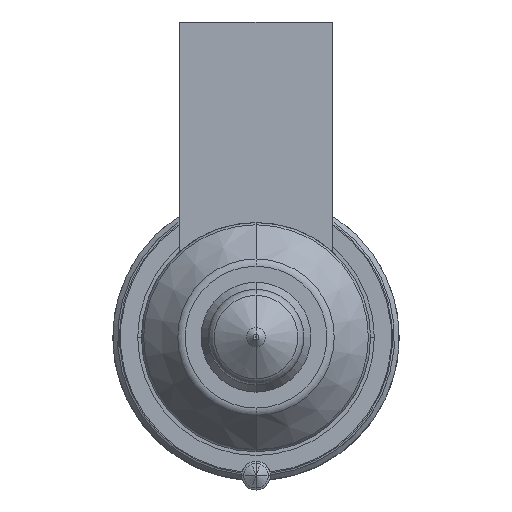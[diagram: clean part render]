
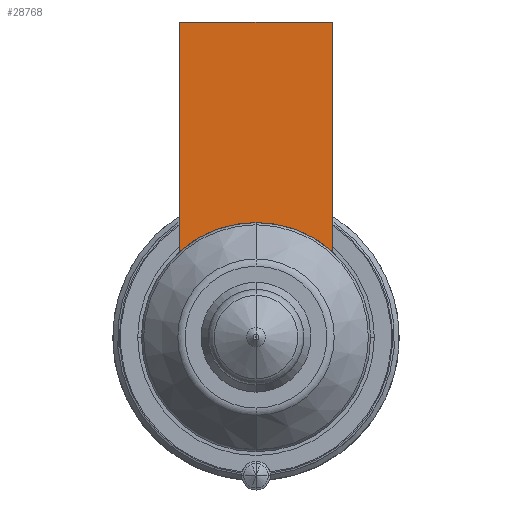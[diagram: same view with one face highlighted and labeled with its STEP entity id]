
A CAD part, front view. The second image highlights one B-rep face of the part: STEP entity #28768.
In plain terms, the highlighted planar face has unit normal (0, -1, 0).
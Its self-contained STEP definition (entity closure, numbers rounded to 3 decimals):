
#27924=DIRECTION('',(0.,0.,-1.));
#27925=VECTOR('',#27924,24.056);
#27926=CARTESIAN_POINT('',(-8.,-56.,33.));
#27927=LINE('',#27926,#27925);
#27964=DIRECTION('',(1.,0.,0.));
#27965=VECTOR('',#27964,16.);
#27966=CARTESIAN_POINT('',(-8.,-56.,33.));
#27967=LINE('',#27966,#27965);
#27971=CARTESIAN_POINT('',(0.,-56.,0.));
#27972=DIRECTION('',(0.,-1.,0.));
#27973=DIRECTION('',(0.667,0.,0.745));
#27974=AXIS2_PLACEMENT_3D('',#27971,#27972,#27973);
#27979=CARTESIAN_POINT('',(0.,-56.,0.));
#27980=DIRECTION('',(0.,-1.,0.));
#27981=DIRECTION('',(0.,0.,1.));
#27982=AXIS2_PLACEMENT_3D('',#27979,#27980,#27981);
#28015=DIRECTION('',(0.,0.,-1.));
#28016=VECTOR('',#28015,24.056);
#28017=CARTESIAN_POINT('',(8.,-56.,33.));
#28018=LINE('',#28017,#28016);
#28612=CARTESIAN_POINT('',(-8.,-56.,33.));
#28613=VERTEX_POINT('',#28612);
#28618=CARTESIAN_POINT('',(8.,-56.,33.));
#28619=VERTEX_POINT('',#28618);
#28622=CARTESIAN_POINT('',(-8.,-56.,8.944));
#28623=VERTEX_POINT('',#28622);
#28626=CARTESIAN_POINT('',(8.,-56.,8.944));
#28627=VERTEX_POINT('',#28626);
#28687=CARTESIAN_POINT('',(0.,-56.,12.));
#28688=VERTEX_POINT('',#28687);
#28753=CARTESIAN_POINT('',(-8.,-56.,33.));
#28754=DIRECTION('',(0.,-1.,0.));
#28755=DIRECTION('',(0.,0.,-1.));
#28756=AXIS2_PLACEMENT_3D('',#28753,#28754,#28755);
#28757=PLANE('',#28756);
#28758=ORIENTED_EDGE('',*,*,#28701,.F.);
#28760=ORIENTED_EDGE('',*,*,#28759,.T.);
#28762=ORIENTED_EDGE('',*,*,#28761,.T.);
#28764=ORIENTED_EDGE('',*,*,#28763,.T.);
#28765=ORIENTED_EDGE('',*,*,#28733,.T.);
#28766=EDGE_LOOP('',(#28758,#28760,#28762,#28764,#28765));
#28767=FACE_OUTER_BOUND('',#28766,.F.);
#28768=ADVANCED_FACE('',(#28767),#28757,.T.);
#27975=CIRCLE('',#27974,12.);
#27983=CIRCLE('',#27982,12.);
#28701=EDGE_CURVE('',#28613,#28623,#27927,.T.);
#28733=EDGE_CURVE('',#28688,#28623,#27983,.T.);
#28759=EDGE_CURVE('',#28613,#28619,#27967,.T.);
#28761=EDGE_CURVE('',#28619,#28627,#28018,.T.);
#28763=EDGE_CURVE('',#28627,#28688,#27975,.T.);
